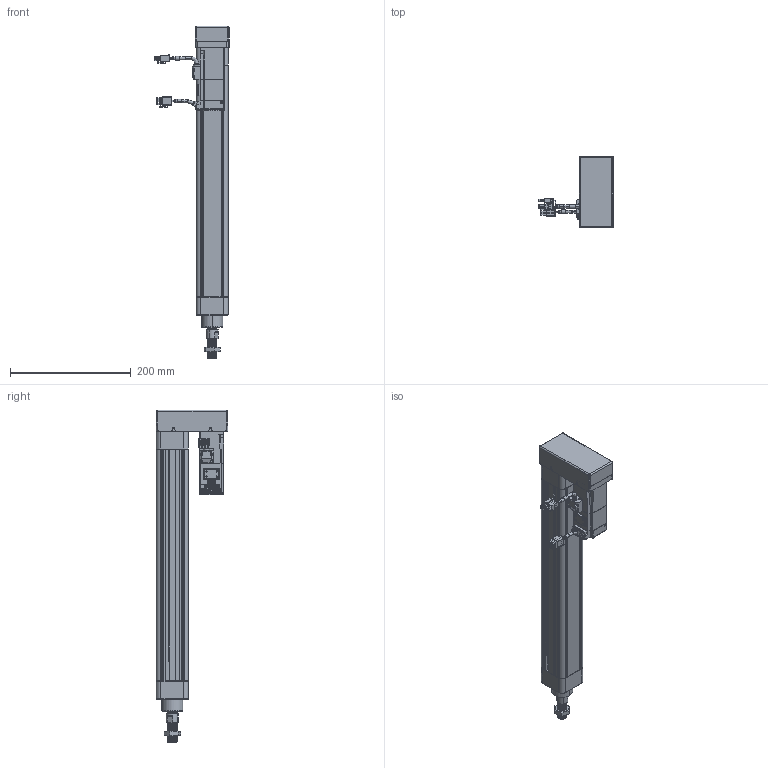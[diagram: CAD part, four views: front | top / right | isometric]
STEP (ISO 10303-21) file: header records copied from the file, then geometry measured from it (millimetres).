
FILE_DESCRIPTION (( 'STEP AP203' ), '1' );
FILE_NAME ('VEC50-10-C-300-MF-ZP10B-MS2.STEP', '2019-01-26T02:50:55', ( 'vobosh 6' ), ( 'Microsoft' ), 'SwSTEP 2.0', 'SolidWorks 2016', '' );
FILE_SCHEMA (( 'CONFIG_CONTROL_DESIGN' ));
Length unit declared in the file: millimetre
Products named in the file (12): 鞠褒蹟譫M16x1.5; VEC50-MF-200-004-X1; VEC50-MF-200-001-X1; MHMF012L1V2; VEC50-MF-200-002-X1; VEC50-MF-200-005-X1; VEC50-MF-200-003-X1; VEC50-10-C-300-MF-ZP10B-MS2; 带尾螺母M6x9x45（镀镍）; 柈ч肣薦え耳9x耳8.5x4.4; VEC50-MF-200-011-X1; CS1-M
Assembly tree (20 placements, depth 2):
  VEC50-10-C-300-MF-ZP10B-MS2
    VEC50-MF-200-001-X1
    VEC50-MF-200-002-X1
    VEC50-MF-200-003-X1
    带尾螺母M6x9x45（镀镍）  x8
    柈ч肣薦え耳9x耳8.5x4.4  x2
    VEC50-MF-200-011-X1
    CS1-M  x2
    鞠褒蹟譫M16x1.5
    VEC50-MF-200-004-X1
    MHMF012L1V2
    VEC50-MF-200-005-X1
Bounding box: 122.5 x 118 x 549 mm (x, y, z)
Volume: 888752 mm3; surface area: 321614.1 mm2
Topology: 27 solids, 27 shells, 1970 faces, 4861 edges, 3048 vertices
Faces by surface type: plane 902, cylinder 703, cone 239, bspline 117, torus 9
Entity records: 59744 total; most frequent: CARTESIAN_POINT 16772, DIRECTION 8631, ORIENTED_EDGE 8630, EDGE_CURVE 4315, AXIS2_PLACEMENT_3D 2988, VERTEX_POINT 2755, LINE 2655, VECTOR 2655
